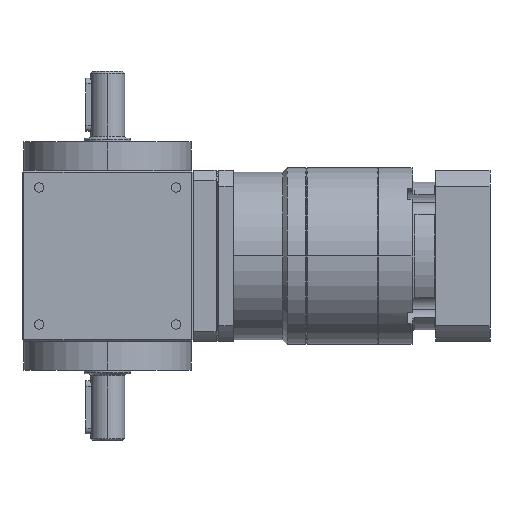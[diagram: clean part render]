
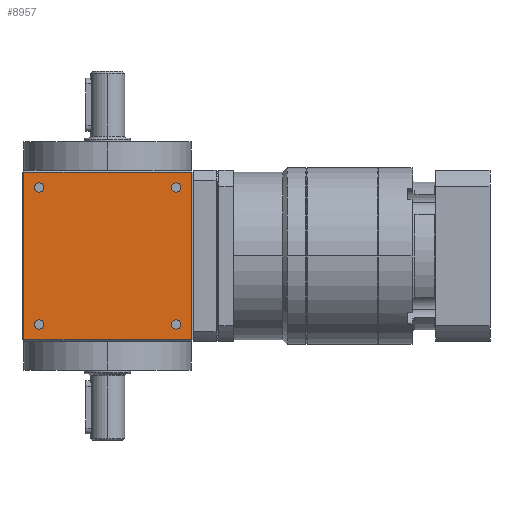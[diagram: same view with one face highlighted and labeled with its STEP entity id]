
A CAD part, left-side view. The second image highlights one B-rep face of the part: STEP entity #8957.
In plain terms, the highlighted planar face has unit normal (-1, 0, 0).
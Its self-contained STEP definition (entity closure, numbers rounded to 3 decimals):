
#262 = AXIS2_PLACEMENT_3D ( 'NONE', #12986, #12892, #11414 ) ;
#471 = ORIENTED_EDGE ( 'NONE', *, *, #3071, .T. ) ;
#524 = ORIENTED_EDGE ( 'NONE', *, *, #12507, .T. ) ;
#848 = AXIS2_PLACEMENT_3D ( 'NONE', #2018, #5052, #16290 ) ;
#878 = VERTEX_POINT ( 'NONE', #9155 ) ;
#1155 = DIRECTION ( 'NONE',  ( 0., -1., 0. ) ) ;
#1224 = VERTEX_POINT ( 'NONE', #14222 ) ;
#1377 = DIRECTION ( 'NONE',  ( 0., 0., 1. ) ) ;
#1384 = DIRECTION ( 'NONE',  ( 1., 0., 0. ) ) ;
#1517 = PLANE ( 'NONE',  #1963 ) ;
#1895 = DIRECTION ( 'NONE',  ( 1., 0., 0. ) ) ;
#1963 = AXIS2_PLACEMENT_3D ( 'NONE', #2807, #16897, #8133 ) ;
#2018 = CARTESIAN_POINT ( 'NONE',  ( -45., 36., 36. ) ) ;
#2087 = DIRECTION ( 'NONE',  ( 0., 0., 1. ) ) ;
#2185 = CARTESIAN_POINT ( 'NONE',  ( -45., -44., 44. ) ) ;
#2380 = ORIENTED_EDGE ( 'NONE', *, *, #4433, .T. ) ;
#2427 = VERTEX_POINT ( 'NONE', #2185 ) ;
#2523 = CIRCLE ( 'NONE', #8683, 2.5 ) ;
#2605 = CIRCLE ( 'NONE', #848, 2.5 ) ;
#2634 = CARTESIAN_POINT ( 'NONE',  ( -45., 45., -44. ) ) ;
#2807 = CARTESIAN_POINT ( 'NONE',  ( -45., 45., -45. ) ) ;
#3071 = EDGE_CURVE ( 'NONE', #2427, #16121, #5735, .T. ) ;
#3080 = CARTESIAN_POINT ( 'NONE',  ( -45., 36., -38.5 ) ) ;
#3100 = CIRCLE ( 'NONE', #16933, 2.5 ) ;
#3101 = EDGE_CURVE ( 'NONE', #17261, #18059, #3100, .T. ) ;
#3316 = VERTEX_POINT ( 'NONE', #5535 ) ;
#3723 = CARTESIAN_POINT ( 'NONE',  ( -45., -36., -36. ) ) ;
#3994 = FACE_BOUND ( 'NONE', #6771, .T. ) ;
#4006 = ORIENTED_EDGE ( 'NONE', *, *, #6265, .T. ) ;
#4063 = CIRCLE ( 'NONE', #6710, 2.5 ) ;
#4186 = FACE_BOUND ( 'NONE', #9289, .T. ) ;
#4221 = EDGE_CURVE ( 'NONE', #16121, #14832, #14936, .T. ) ;
#4433 = EDGE_CURVE ( 'NONE', #3316, #6080, #17610, .T. ) ;
#4835 = CARTESIAN_POINT ( 'NONE',  ( -45., 36., -36. ) ) ;
#5052 = DIRECTION ( 'NONE',  ( 1., 0., 0. ) ) ;
#5128 = VERTEX_POINT ( 'NONE', #3080 ) ;
#5133 = ORIENTED_EDGE ( 'NONE', *, *, #3101, .T. ) ;
#5169 = DIRECTION ( 'NONE',  ( 0., 0., -1. ) ) ;
#5443 = DIRECTION ( 'NONE',  ( 0., 0., 1. ) ) ;
#5535 = CARTESIAN_POINT ( 'NONE',  ( -45., -36., 38.5 ) ) ;
#5620 = EDGE_LOOP ( 'NONE', ( #5133, #4006 ) ) ;
#5622 = ORIENTED_EDGE ( 'NONE', *, *, #17084, .T. ) ;
#5637 = CARTESIAN_POINT ( 'NONE',  ( -45., 44., -44. ) ) ;
#5735 = LINE ( 'NONE', #14302, #16625 ) ;
#5907 = ORIENTED_EDGE ( 'NONE', *, *, #13771, .T. ) ;
#6079 = CARTESIAN_POINT ( 'NONE',  ( -45., 44., 44. ) ) ;
#6080 = VERTEX_POINT ( 'NONE', #12409 ) ;
#6122 = LINE ( 'NONE', #15889, #16662 ) ;
#6265 = EDGE_CURVE ( 'NONE', #18059, #17261, #4063, .T. ) ;
#6577 = VERTEX_POINT ( 'NONE', #7037 ) ;
#6626 = EDGE_LOOP ( 'NONE', ( #13867, #5622, #471, #11862 ) ) ;
#6698 = AXIS2_PLACEMENT_3D ( 'NONE', #14013, #6822, #5443 ) ;
#6710 = AXIS2_PLACEMENT_3D ( 'NONE', #3723, #10731, #10454 ) ;
#6721 = DIRECTION ( 'NONE',  ( 0., 0., 1. ) ) ;
#6771 = EDGE_LOOP ( 'NONE', ( #11873, #13488 ) ) ;
#6822 = DIRECTION ( 'NONE',  ( 1., 0., 0. ) ) ;
#6940 = VECTOR ( 'NONE', #5169, 1000. ) ;
#7037 = CARTESIAN_POINT ( 'NONE',  ( -45., 36., 38.5 ) ) ;
#8133 = DIRECTION ( 'NONE',  ( 0., 0., 1. ) ) ;
#8134 = LINE ( 'NONE', #2634, #12920 ) ;
#8313 = FACE_OUTER_BOUND ( 'NONE', #6626, .T. ) ;
#8356 = CARTESIAN_POINT ( 'NONE',  ( -45., 36., -36. ) ) ;
#8578 = CARTESIAN_POINT ( 'NONE',  ( -45., -36., -36. ) ) ;
#8683 = AXIS2_PLACEMENT_3D ( 'NONE', #12534, #1384, #6721 ) ;
#8957 = ADVANCED_FACE ( 'NONE', ( #8313, #11093, #3994, #15241, #4186 ), #1517, .T. ) ;
#9143 = DIRECTION ( 'NONE',  ( 0., 0., 1. ) ) ;
#9155 = CARTESIAN_POINT ( 'NONE',  ( -45., 36., 33.5 ) ) ;
#9289 = EDGE_LOOP ( 'NONE', ( #5907, #12281 ) ) ;
#9473 = VERTEX_POINT ( 'NONE', #12737 ) ;
#10350 = CIRCLE ( 'NONE', #15061, 2.5 ) ;
#10454 = DIRECTION ( 'NONE',  ( 0., 0., 1. ) ) ;
#10731 = DIRECTION ( 'NONE',  ( 1., 0., 0. ) ) ;
#11008 = CARTESIAN_POINT ( 'NONE',  ( -45., -36., -38.5 ) ) ;
#11093 = FACE_BOUND ( 'NONE', #15727, .T. ) ;
#11414 = DIRECTION ( 'NONE',  ( 0., 0., 1. ) ) ;
#11446 = AXIS2_PLACEMENT_3D ( 'NONE', #8356, #13999, #1377 ) ;
#11862 = ORIENTED_EDGE ( 'NONE', *, *, #4221, .T. ) ;
#11873 = ORIENTED_EDGE ( 'NONE', *, *, #12383, .T. ) ;
#12281 = ORIENTED_EDGE ( 'NONE', *, *, #16037, .T. ) ;
#12383 = EDGE_CURVE ( 'NONE', #1224, #5128, #14111, .T. ) ;
#12409 = CARTESIAN_POINT ( 'NONE',  ( -45., -36., 33.5 ) ) ;
#12507 = EDGE_CURVE ( 'NONE', #6080, #3316, #12923, .T. ) ;
#12534 = CARTESIAN_POINT ( 'NONE',  ( -45., 36., 36. ) ) ;
#12737 = CARTESIAN_POINT ( 'NONE',  ( -45., -44., -44. ) ) ;
#12881 = EDGE_CURVE ( 'NONE', #5128, #1224, #10350, .T. ) ;
#12892 = DIRECTION ( 'NONE',  ( 1., 0., 0. ) ) ;
#12920 = VECTOR ( 'NONE', #1155, 1000. ) ;
#12923 = CIRCLE ( 'NONE', #262, 2.5 ) ;
#12986 = CARTESIAN_POINT ( 'NONE',  ( -45., -36., 36. ) ) ;
#13488 = ORIENTED_EDGE ( 'NONE', *, *, #12881, .T. ) ;
#13771 = EDGE_CURVE ( 'NONE', #6577, #878, #2605, .T. ) ;
#13867 = ORIENTED_EDGE ( 'NONE', *, *, #14329, .T. ) ;
#13999 = DIRECTION ( 'NONE',  ( 1., 0., 0. ) ) ;
#14013 = CARTESIAN_POINT ( 'NONE',  ( -45., -36., 36. ) ) ;
#14111 = CIRCLE ( 'NONE', #11446, 2.5 ) ;
#14212 = DIRECTION ( 'NONE',  ( 1., 0., 0. ) ) ;
#14222 = CARTESIAN_POINT ( 'NONE',  ( -45., 36., -33.5 ) ) ;
#14302 = CARTESIAN_POINT ( 'NONE',  ( -45., 45., 44. ) ) ;
#14329 = EDGE_CURVE ( 'NONE', #14832, #9473, #8134, .T. ) ;
#14832 = VERTEX_POINT ( 'NONE', #5637 ) ;
#14936 = LINE ( 'NONE', #17535, #6940 ) ;
#15061 = AXIS2_PLACEMENT_3D ( 'NONE', #4835, #1895, #2087 ) ;
#15217 = CARTESIAN_POINT ( 'NONE',  ( -45., -36., -33.5 ) ) ;
#15241 = FACE_BOUND ( 'NONE', #5620, .T. ) ;
#15727 = EDGE_LOOP ( 'NONE', ( #2380, #524 ) ) ;
#15889 = CARTESIAN_POINT ( 'NONE',  ( -45., -44., -45. ) ) ;
#16037 = EDGE_CURVE ( 'NONE', #878, #6577, #2523, .T. ) ;
#16121 = VERTEX_POINT ( 'NONE', #6079 ) ;
#16290 = DIRECTION ( 'NONE',  ( 0., 0., 1. ) ) ;
#16625 = VECTOR ( 'NONE', #16881, 1000. ) ;
#16662 = VECTOR ( 'NONE', #9143, 1000. ) ;
#16881 = DIRECTION ( 'NONE',  ( 0., 1., 0. ) ) ;
#16897 = DIRECTION ( 'NONE',  ( -1., 0., 0. ) ) ;
#16933 = AXIS2_PLACEMENT_3D ( 'NONE', #8578, #14212, #17079 ) ;
#17079 = DIRECTION ( 'NONE',  ( 0., 0., 1. ) ) ;
#17084 = EDGE_CURVE ( 'NONE', #9473, #2427, #6122, .T. ) ;
#17261 = VERTEX_POINT ( 'NONE', #15217 ) ;
#17535 = CARTESIAN_POINT ( 'NONE',  ( -45., 44., -45. ) ) ;
#17610 = CIRCLE ( 'NONE', #6698, 2.5 ) ;
#18059 = VERTEX_POINT ( 'NONE', #11008 ) ;
